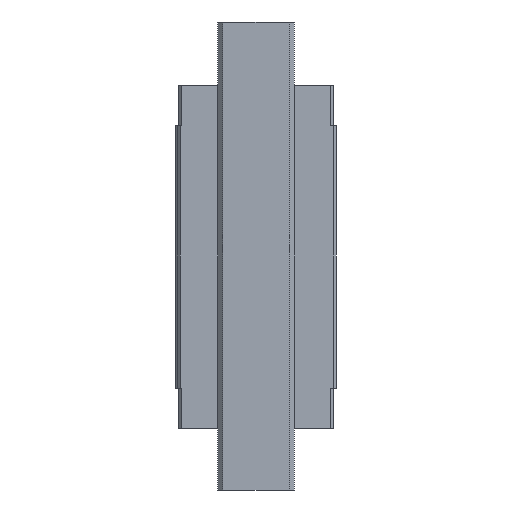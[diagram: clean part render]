
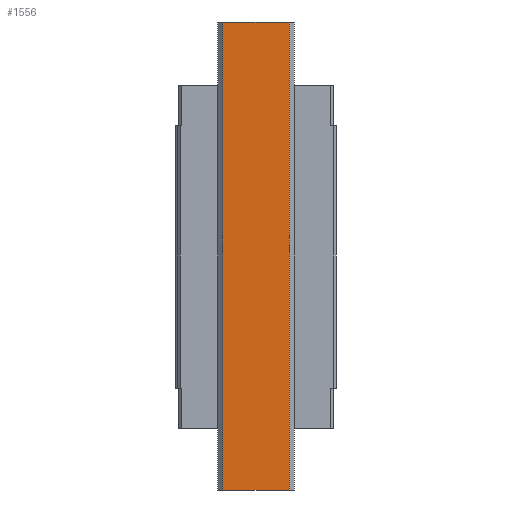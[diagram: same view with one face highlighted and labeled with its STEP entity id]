
A CAD part, front view. The second image highlights one B-rep face of the part: STEP entity #1556.
In plain terms, the highlighted planar face has unit normal (0, -1, 0).
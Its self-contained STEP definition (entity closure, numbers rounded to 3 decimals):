
#378 = EDGE_CURVE ( 'NONE', #2943, #3083, #4469, .T. ) ;
#561 = CARTESIAN_POINT ( 'NONE',  ( -10., -22., -109. ) ) ;
#607 = DIRECTION ( 'NONE',  ( 1., 0., 0. ) ) ;
#1033 = VERTEX_POINT ( 'NONE', #1188 ) ;
#1121 = ORIENTED_EDGE ( 'NONE', *, *, #2519, .T. ) ;
#1188 = CARTESIAN_POINT ( 'NONE',  ( -10., -22., -109. ) ) ;
#1458 = AXIS2_PLACEMENT_3D ( 'NONE', #2568, #2621, #3942 ) ;
#1491 = CARTESIAN_POINT ( 'NONE',  ( -10., -22., -109. ) ) ;
#1556 = ADVANCED_FACE ( 'NONE', ( #5412 ), #4553, .T. ) ;
#1560 = DIRECTION ( 'NONE',  ( 0., 0., 1. ) ) ;
#1606 = CARTESIAN_POINT ( 'NONE',  ( -10., -22., 31. ) ) ;
#1992 = LINE ( 'NONE', #5392, #3930 ) ;
#2250 = LINE ( 'NONE', #561, #4526 ) ;
#2279 = EDGE_CURVE ( 'NONE', #1033, #4036, #4949, .T. ) ;
#2519 = EDGE_CURVE ( 'NONE', #3083, #1033, #2250, .T. ) ;
#2568 = CARTESIAN_POINT ( 'NONE',  ( -10., -22., -109. ) ) ;
#2621 = DIRECTION ( 'NONE',  ( 0., -1., 0. ) ) ;
#2674 = DIRECTION ( 'NONE',  ( -1., 0., 0. ) ) ;
#2724 = CARTESIAN_POINT ( 'NONE',  ( 10., -22., -109. ) ) ;
#2757 = DIRECTION ( 'NONE',  ( 0., 0., -1. ) ) ;
#2943 = VERTEX_POINT ( 'NONE', #5200 ) ;
#3083 = VERTEX_POINT ( 'NONE', #1606 ) ;
#3498 = CARTESIAN_POINT ( 'NONE',  ( -10., -22., 31. ) ) ;
#3578 = ORIENTED_EDGE ( 'NONE', *, *, #5081, .T. ) ;
#3677 = ORIENTED_EDGE ( 'NONE', *, *, #2279, .T. ) ;
#3691 = VECTOR ( 'NONE', #2674, 1000. ) ;
#3930 = VECTOR ( 'NONE', #1560, 1000. ) ;
#3942 = DIRECTION ( 'NONE',  ( 0., 0., -1. ) ) ;
#4036 = VERTEX_POINT ( 'NONE', #2724 ) ;
#4446 = EDGE_LOOP ( 'NONE', ( #1121, #3677, #3578, #5139 ) ) ;
#4469 = LINE ( 'NONE', #3498, #3691 ) ;
#4526 = VECTOR ( 'NONE', #2757, 1000. ) ;
#4553 = PLANE ( 'NONE',  #1458 ) ;
#4949 = LINE ( 'NONE', #1491, #4960 ) ;
#4960 = VECTOR ( 'NONE', #607, 1000. ) ;
#5081 = EDGE_CURVE ( 'NONE', #4036, #2943, #1992, .T. ) ;
#5139 = ORIENTED_EDGE ( 'NONE', *, *, #378, .T. ) ;
#5200 = CARTESIAN_POINT ( 'NONE',  ( 10., -22., 31. ) ) ;
#5392 = CARTESIAN_POINT ( 'NONE',  ( 10., -22., -109. ) ) ;
#5412 = FACE_OUTER_BOUND ( 'NONE', #4446, .T. ) ;
